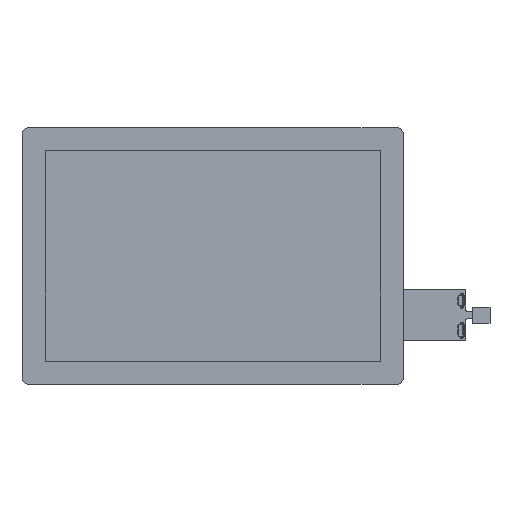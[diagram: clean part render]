
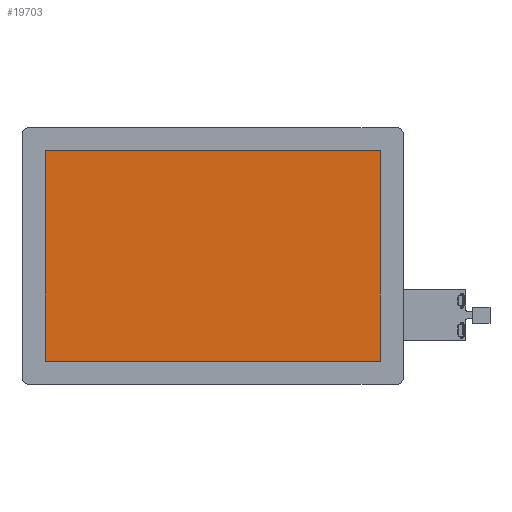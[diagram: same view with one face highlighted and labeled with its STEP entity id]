
A CAD part, top view. The second image highlights one B-rep face of the part: STEP entity #19703.
In plain terms, the highlighted planar face has unit normal (0, 0, 1).
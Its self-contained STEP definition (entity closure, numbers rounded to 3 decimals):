
#3438 = EDGE_CURVE ( 'NONE', #19837, #63003, #78619, .T. ) ;
#5839 = VECTOR ( 'NONE', #57113, 1000. ) ;
#6130 = LINE ( 'NONE', #19685, #9913 ) ;
#9913 = VECTOR ( 'NONE', #26447, 1000. ) ;
#12339 = CARTESIAN_POINT ( 'NONE',  ( 0., 0., 13.89 ) ) ;
#17685 = CARTESIAN_POINT ( 'NONE',  ( 131.06, -82.1, 13.89 ) ) ;
#19685 = CARTESIAN_POINT ( 'NONE',  ( 0., -82.1, 13.89 ) ) ;
#19703 = ADVANCED_FACE ( 'NONE', ( #34014 ), #26783, .T. ) ;
#19837 = VERTEX_POINT ( 'NONE', #39884 ) ;
#20035 = VERTEX_POINT ( 'NONE', #17685 ) ;
#20357 = ORIENTED_EDGE ( 'NONE', *, *, #71081, .T. ) ;
#20583 = VERTEX_POINT ( 'NONE', #66806 ) ;
#24114 = VECTOR ( 'NONE', #79537, 1000. ) ;
#26278 = ORIENTED_EDGE ( 'NONE', *, *, #85636, .T. ) ;
#26447 = DIRECTION ( 'NONE',  ( 1., 0., 0. ) ) ;
#26783 = PLANE ( 'NONE',  #85775 ) ;
#34014 = FACE_OUTER_BOUND ( 'NONE', #57663, .T. ) ;
#36850 = CARTESIAN_POINT ( 'NONE',  ( 0., 82.1, 13.89 ) ) ;
#37973 = CARTESIAN_POINT ( 'NONE',  ( -131.06, 0., 13.89 ) ) ;
#39884 = CARTESIAN_POINT ( 'NONE',  ( -131.06, 82.1, 13.89 ) ) ;
#40786 = DIRECTION ( 'NONE',  ( 0., 0., 1. ) ) ;
#43694 = ORIENTED_EDGE ( 'NONE', *, *, #3438, .T. ) ;
#47656 = ORIENTED_EDGE ( 'NONE', *, *, #55788, .T. ) ;
#49507 = LINE ( 'NONE', #36850, #50513 ) ;
#50513 = VECTOR ( 'NONE', #77084, 1000. ) ;
#52214 = DIRECTION ( 'NONE',  ( 1., 0., 0. ) ) ;
#55788 = EDGE_CURVE ( 'NONE', #20583, #19837, #49507, .T. ) ;
#55990 = CARTESIAN_POINT ( 'NONE',  ( -131.06, -82.1, 13.89 ) ) ;
#57113 = DIRECTION ( 'NONE',  ( 0., 1., 0. ) ) ;
#57663 = EDGE_LOOP ( 'NONE', ( #26278, #20357, #47656, #43694 ) ) ;
#58430 = CARTESIAN_POINT ( 'NONE',  ( 131.06, 0., 13.89 ) ) ;
#63003 = VERTEX_POINT ( 'NONE', #55990 ) ;
#65248 = LINE ( 'NONE', #58430, #5839 ) ;
#66806 = CARTESIAN_POINT ( 'NONE',  ( 131.06, 82.1, 13.89 ) ) ;
#71081 = EDGE_CURVE ( 'NONE', #20035, #20583, #65248, .T. ) ;
#77084 = DIRECTION ( 'NONE',  ( -1., 0., 0. ) ) ;
#78619 = LINE ( 'NONE', #37973, #24114 ) ;
#79537 = DIRECTION ( 'NONE',  ( 0., -1., 0. ) ) ;
#85636 = EDGE_CURVE ( 'NONE', #63003, #20035, #6130, .T. ) ;
#85775 = AXIS2_PLACEMENT_3D ( 'NONE', #12339, #40786, #52214 ) ;
